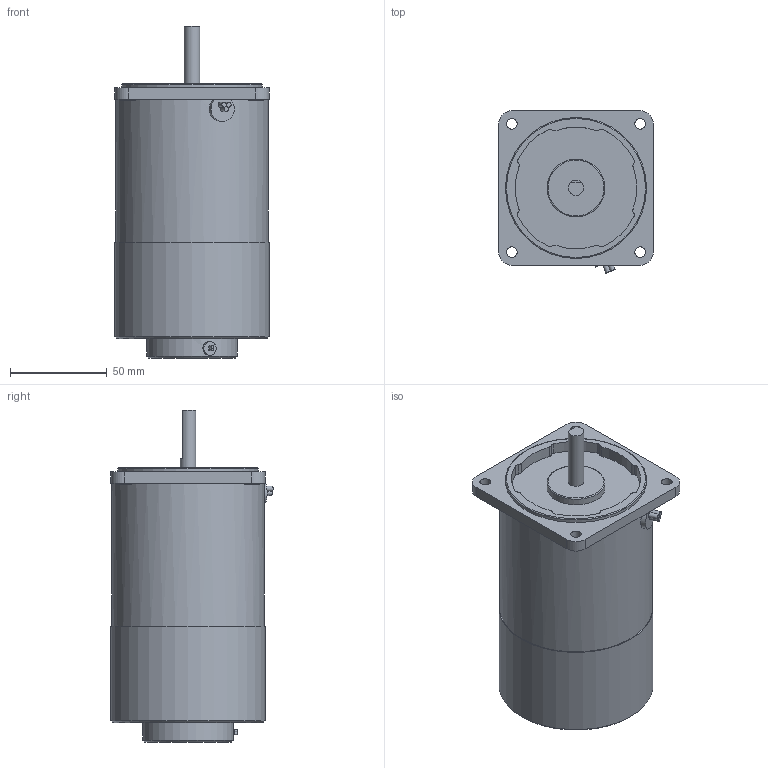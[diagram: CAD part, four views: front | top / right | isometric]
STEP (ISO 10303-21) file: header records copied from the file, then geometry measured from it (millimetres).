
FILE_DESCRIPTION((''),'2;1');
FILE_NAME('E:\2공장-도면\3D\표준형 3D(민규)\step file\D\K8RS25Nㅁ-D.stp','2014-11-17T11:03:58',('AHN'),(''),'Autodesk Inventor 2012','Autodesk Inventor 2012','');
FILE_SCHEMA(('CONFIG_CONTROL_DESIGN'));
Length unit declared in the file: millimetre
Products named in the file (1): K8RS25Nㅁ-D
Bounding box: 80 x 84.13 x 172 mm (x, y, z)
Volume: 662061.1 mm3; surface area: 50344.6 mm2
Topology: 1 solids, 1 shells, 84 faces, 193 edges, 120 vertices
Faces by surface type: cylinder 52, plane 28, cone 2, torus 2
Full cylindrical faces by diameter (mm): 1.4 x2, 5.5 x4, 7 x1, 8 x5, 30 x1, 47 x1, 73 x1, 79 x1, 80 x1
Entity records: 2356 total; most frequent: DIRECTION 443, CARTESIAN_POINT 430, ORIENTED_EDGE 336, AXIS2_PLACEMENT_3D 192, EDGE_CURVE 168, EDGE_LOOP 124, VERTEX_POINT 114, CIRCLE 107
